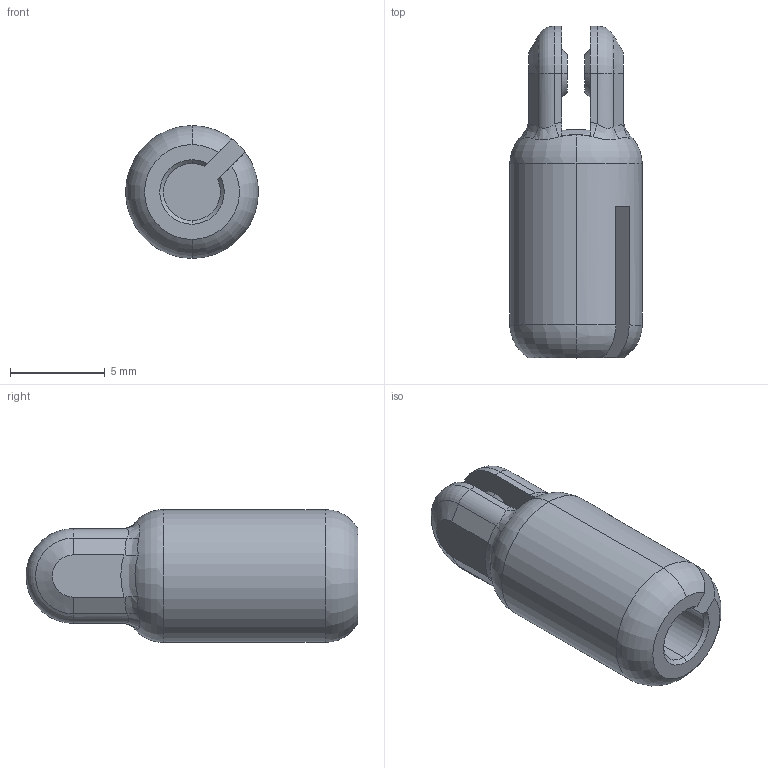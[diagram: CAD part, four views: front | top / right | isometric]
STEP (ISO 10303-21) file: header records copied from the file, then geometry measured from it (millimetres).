
FILE_DESCRIPTION (( 'STEP AP203' ), '1' );
FILE_NAME ('lower_arm.step', '2023-08-15T08:05:39', ( '' ), ( '' ), 'SwSTEP 2.0', 'SolidWorks 2020', '' );
FILE_SCHEMA (( 'CONFIG_CONTROL_DESIGN' ));
Length unit declared in the file: millimetre
Products named in the file (1): lower_arm
Bounding box: 7 x 17.5 x 7 mm (x, y, z)
Volume: 442 mm3; surface area: 518.5 mm2
Topology: 1 solids, 1 shells, 60 faces, 146 edges, 90 vertices
Faces by surface type: plane 18, bspline 14, cylinder 12, cone 9, torus 7
Entity records: 2213 total; most frequent: CARTESIAN_POINT 847, ORIENTED_EDGE 292, DIRECTION 240, EDGE_CURVE 146, AXIS2_PLACEMENT_3D 99, VERTEX_POINT 90, EDGE_LOOP 62, FACE_OUTER_BOUND 60
